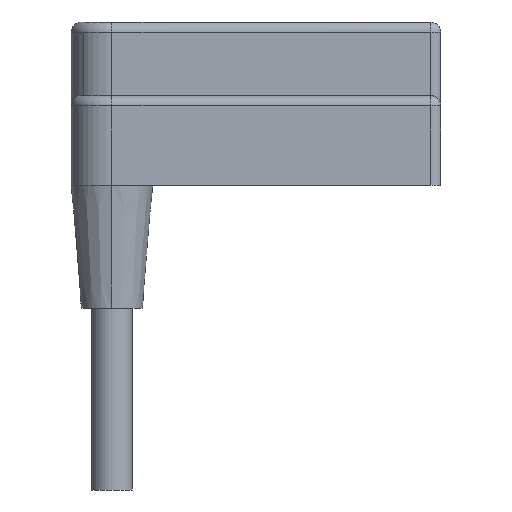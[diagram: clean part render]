
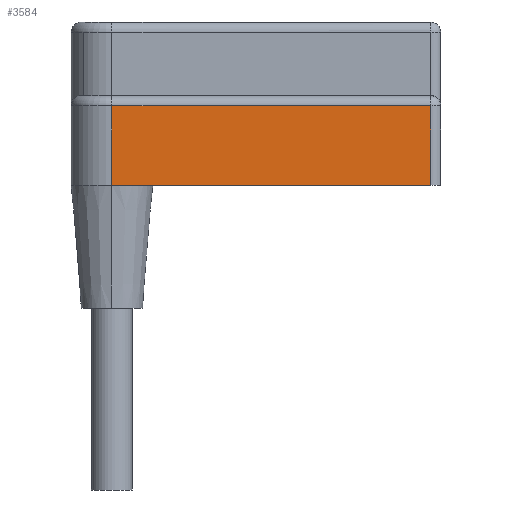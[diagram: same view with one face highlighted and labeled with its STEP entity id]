
A CAD part, left-side view. The second image highlights one B-rep face of the part: STEP entity #3584.
In plain terms, the highlighted planar face has unit normal (-1, 0, 0).
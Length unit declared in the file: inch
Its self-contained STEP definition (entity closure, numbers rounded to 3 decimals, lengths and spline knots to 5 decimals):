
#318=DIRECTION('',(0.,-1.,0.));
#319=VECTOR('',#318,0.61417);
#320=CARTESIAN_POINT('',(-1.57087,0.27756,
0.15354));
#321=LINE('',#320,#319);
#326=DIRECTION('',(0.,-1.,0.));
#327=VECTOR('',#326,0.61417);
#328=CARTESIAN_POINT('',(-1.57087,0.27756,0.));
#329=LINE('',#328,#327);
#334=DIRECTION('',(0.,0.,-1.));
#335=VECTOR('',#334,0.15354);
#336=CARTESIAN_POINT('',(-1.57087,-0.33661,
0.15354));
#337=LINE('',#336,#335);
#338=DIRECTION('',(0.,0.,1.));
#339=VECTOR('',#338,0.15354);
#340=CARTESIAN_POINT('',(-1.57087,0.27756,0.));
#341=LINE('',#340,#339);
#3018=CARTESIAN_POINT('',(-1.57087,0.27756,
0.15354));
#3020=VERTEX_POINT('',#3018);
#3027=CARTESIAN_POINT('',(-1.57087,-0.33661,
0.15354));
#3029=VERTEX_POINT('',#3027);
#3030=CARTESIAN_POINT('',(-1.57087,-0.33661,0.));
#3031=VERTEX_POINT('',#3030);
#3032=CARTESIAN_POINT('',(-1.57087,0.27756,0.));
#3033=VERTEX_POINT('',#3032);
#3571=CARTESIAN_POINT('',(-1.57087,-0.3563,0.));
#3572=DIRECTION('',(-1.,0.,0.));
#3573=DIRECTION('',(0.,0.,1.));
#3574=AXIS2_PLACEMENT_3D('',#3571,#3572,#3573);
#3575=PLANE('',#3574);
#3576=ORIENTED_EDGE('',*,*,#3559,.T.);
#3578=ORIENTED_EDGE('',*,*,#3577,.T.);
#3579=ORIENTED_EDGE('',*,*,#3377,.F.);
#3581=ORIENTED_EDGE('',*,*,#3580,.T.);
#3582=EDGE_LOOP('',(#3576,#3578,#3579,#3581));
#3583=FACE_OUTER_BOUND('',#3582,.F.);
#3584=ADVANCED_FACE('',(#3583),#3575,.T.);
#3377=EDGE_CURVE('',#3033,#3031,#329,.T.);
#3559=EDGE_CURVE('',#3020,#3029,#321,.T.);
#3577=EDGE_CURVE('',#3029,#3031,#337,.T.);
#3580=EDGE_CURVE('',#3033,#3020,#341,.T.);
